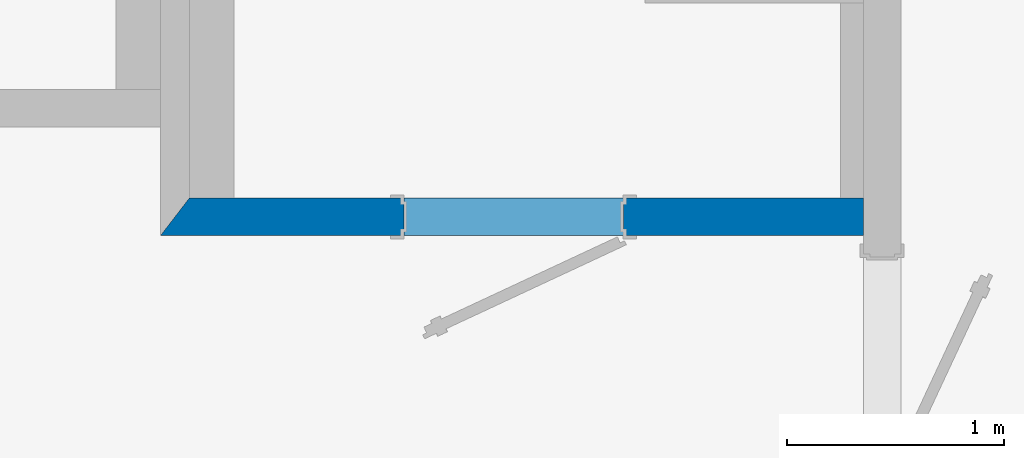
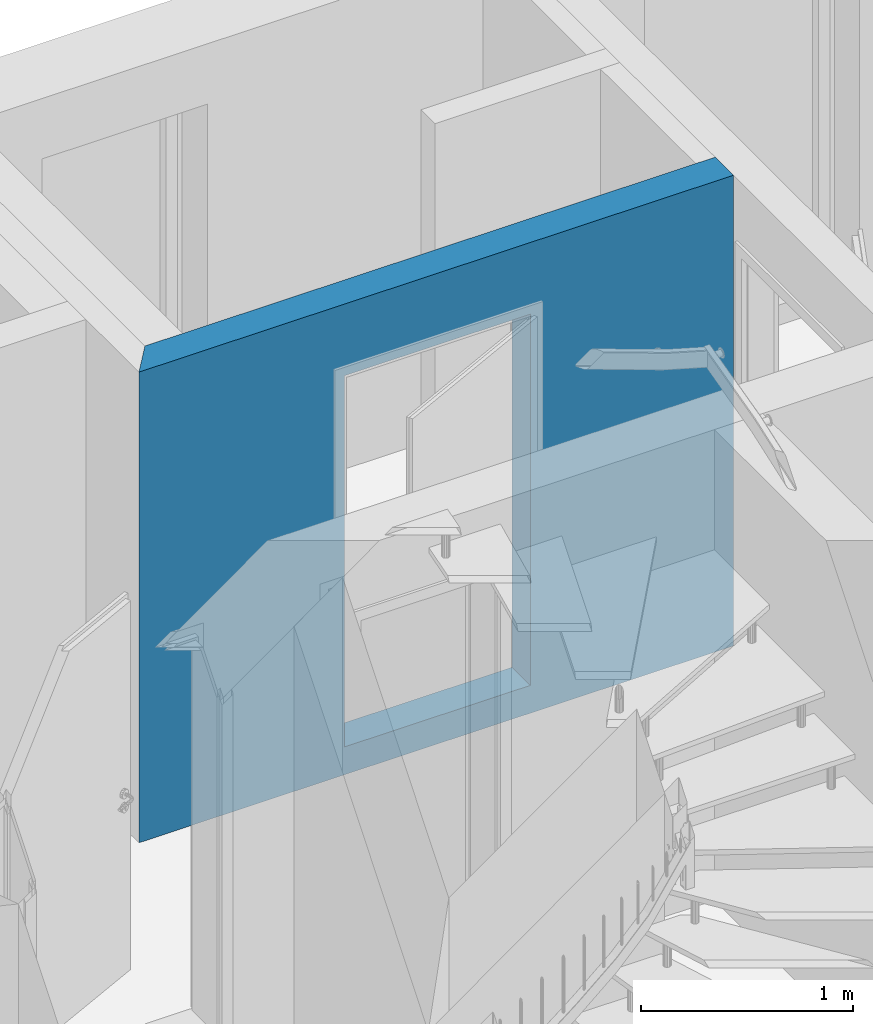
# One storey, part 11 of 13: 1 wall, 1 opening.
"""IFC2X3 building model written with IfcOpenShell, lengths in millimetres."""

import ifcopenshell
import ifcopenshell.guid

model = None  # the IFC model being written
_history = None  # IfcOwnerHistory: only IFC2X3 demands one
_inside = {}  # id of a spatial element -> (the spatial element, [elements in it])
_under = {}  # id of a project, library or spatial element -> (it, [spatial elements below it])
_declared = {}  # id of a project -> (the project, [libraries it declares])
_typed = {}  # id of a type object -> (the type object, [elements of that type])
_made_of = {}  # id of a material, layer set ... -> (it, [elements and type objects made of it])


def new_model(schema):
    """Start an empty IFC model of exactly this schema.

    Asked for "IFC4X3", IfcOpenShell would pick the latest addendum, in which some entities
    have other attributes; the version numbers below select the first issue.
    IFC2X3 requires an IfcOwnerHistory on every rooted entity: one is made here for all.
    """
    global model, _history
    if schema == "IFC4X3":
        model = ifcopenshell.file(schema_version=(4, 3, 0, 0))
    else:
        model = ifcopenshell.file(schema=schema)
    _inside.clear()
    _under.clear()
    _declared.clear()
    _typed.clear()
    _made_of.clear()
    _history = None
    if model.schema == "IFC2X3":
        org = make("IfcOrganization", Name="unknown")
        user = make(
            "IfcPersonAndOrganization",
            ThePerson=make("IfcPerson", FamilyName="unknown"),
            TheOrganization=org,
        )
        app = make(
            "IfcApplication",
            ApplicationDeveloper=org,
            Version="unknown",
            ApplicationFullName="unknown",
            ApplicationIdentifier="unknown",
        )
        _history = make(
            "IfcOwnerHistory",
            OwningUser=user,
            OwningApplication=app,
            ChangeAction="ADDED",
            CreationDate=0,
        )
    return model


def make(cls, **values):
    """One entity of the class cls with the attributes given. An attribute that is None is left unset."""
    return model.create_entity(
        cls, **{name: value for name, value in values.items() if value is not None}
    )


def rooted(cls, **values):
    """An entity with a GlobalId (a new one), such as an element, a storey or a relation."""
    return make(cls, GlobalId=ifcopenshell.guid.new(), OwnerHistory=_history, **values)


def si_unit(unit_type, name, prefix=None):
    """IfcSIUnit, for example si_unit("LENGTHUNIT", "METRE", prefix="MILLI")."""
    return make("IfcSIUnit", UnitType=unit_type, Prefix=prefix, Name=name)


def assignment(units):
    """IfcUnitAssignment: the units of a project."""
    return None if units is None else make("IfcUnitAssignment", Units=units)


def point(xyz):
    """IfcCartesianPoint."""
    return None if xyz is None else make("IfcCartesianPoint", Coordinates=xyz)


def direction(xyz):
    """IfcDirection."""
    return None if xyz is None else make("IfcDirection", DirectionRatios=xyz)


def frame(location, z_axis=None, x_axis=None):
    """IfcAxis2Placement3D, a coordinate frame: its origin and axes. An axis left out is left unset."""
    return make(
        "IfcAxis2Placement3D",
        Location=point(location),
        Axis=direction(z_axis),
        RefDirection=direction(x_axis),
    )


def origin_with_axes():
    """The frame at (0, 0, 0) with the z axis (0, 0, 1) and the x axis (1, 0, 0) written out."""
    return frame((0.0, 0.0, 0.0), z_axis=(0.0, 0.0, 1.0), x_axis=(1.0, 0.0, 0.0))


def place(relative_to, where):
    """IfcLocalPlacement: puts the frame where relative to a parent placement (None: the world)."""
    return make(
        "IfcLocalPlacement", PlacementRelTo=relative_to, RelativePlacement=where
    )


def context(
    kind, dimensions, precision=None, world=None, true_north=None, identifier=None
):
    """IfcGeometricRepresentationContext, for example the 3D "Model" context."""
    return make(
        "IfcGeometricRepresentationContext",
        ContextIdentifier=identifier,
        ContextType=kind,
        CoordinateSpaceDimension=dimensions,
        Precision=precision,
        WorldCoordinateSystem=world,
        TrueNorth=true_north,
    )


def project(units=None, contexts=None):
    """IfcProject with its units and contexts."""
    return rooted(
        "IfcProject",
        Name="project",
        RepresentationContexts=contexts,
        UnitsInContext=assignment(units),
    )


def spatial(cls, under=None, at=None, **own):
    """A site, building, storey or space (cls), placed at a placement, below another one or the project."""
    s = rooted(cls, ObjectPlacement=at, **own)
    if under is not None:
        _under.setdefault(under.id(), (under, []))[1].append(s)
    return s


def faces_of(points, faces, orient=None, outer=None):
    """IfcFace entities. A face is a list of loops; a loop is a list of indices into points, from 0.

    orient and outer hold one flag for each loop. By default every Orientation is true, the
    first loop of a face is its IfcFaceOuterBound and the others are IfcFaceBound.
    """
    made = []
    for i, loops in enumerate(faces):
        bounds = []
        for j, loop in enumerate(loops):
            is_outer = j == 0 if outer is None else outer[i][j]
            bounds.append(
                make(
                    "IfcFaceOuterBound" if is_outer else "IfcFaceBound",
                    Bound=make("IfcPolyLoop", Polygon=[points[k] for k in loop]),
                    Orientation=True if orient is None else orient[i][j],
                )
            )
        made.append(make("IfcFace", Bounds=bounds))
    return made


def faceted_brep(points, faces, orient=None, outer=None, voids=None):
    """IfcFacetedBrep: a solid bounded by flat faces; with voids (closed shells), ...WithVoids."""
    shared = [point(p) for p in points]
    hull = make("IfcClosedShell", CfsFaces=faces_of(shared, faces, orient, outer))
    if voids is None:
        return make("IfcFacetedBrep", Outer=hull)
    return make(
        "IfcFacetedBrepWithVoids",
        Outer=hull,
        Voids=[
            make(cls, CfsFaces=faces_of(shared, fs, o, b)) for cls, fs, o, b in voids
        ],
    )


def shape(context_of_items, identifier, shape_type, items):
    """IfcShapeRepresentation: the items that make up one representation, for example the "Body"."""
    return make(
        "IfcShapeRepresentation",
        ContextOfItems=context_of_items,
        RepresentationIdentifier=identifier,
        RepresentationType=shape_type,
        Items=items,
    )


def material(Name=None, Category=None):
    """IfcMaterial."""
    return make("IfcMaterial", Name=Name, Category=Category)


def layer(
    of_material, thickness, ventilated=None, Name=None, Category=None, Priority=None
):
    """IfcMaterialLayer: one layer of a wall or slab, of a material (None: an air gap)."""
    return make(
        "IfcMaterialLayer",
        Material=of_material,
        LayerThickness=thickness,
        IsVentilated=ventilated,
        Name=Name,
        Category=Category,
        Priority=Priority,
    )


def layer_set(layers, Name=None):
    """IfcMaterialLayerSet."""
    return make("IfcMaterialLayerSet", MaterialLayers=layers, LayerSetName=Name)


def layer_usage(for_layer_set, set_direction, sense, offset, extent=None):
    """IfcMaterialLayerSetUsage: how a layer set lies in its element."""
    return make(
        "IfcMaterialLayerSetUsage",
        ForLayerSet=for_layer_set,
        LayerSetDirection=set_direction,
        DirectionSense=sense,
        OffsetFromReferenceLine=offset,
        ReferenceExtent=extent,
    )


def made_of(thing, what):
    """Note that an element or type object is made of a material, layer set ...; save() writes the relation."""
    if what is not None:
        _made_of.setdefault(what.id(), (what, []))[1].append(thing)
    return thing


def element(
    cls,
    number,
    at=None,
    inside=None,
    cuts=None,
    type_object=None,
    material=None,
    context=None,
    identifier="Body",
    shape_type=None,
    held_by="IfcProductDefinitionShape",
    body=None,
    shapes=None,
    **own,
):
    """One element of the class cls, such as IfcWall. Its Tag is "e" and its number.

    at: its placement. inside: the storey or other place that contains it. cuts: it is an
    opening in that element (IfcRelVoidsElement). A single representation is given by context,
    identifier, shape_type and body (its items); several are given by shapes. held_by: the class
    of the entity that holds the representations. save() writes the other relations.
    """
    e = rooted(cls, Tag="e%d" % number, ObjectPlacement=at, **own)
    if body is not None:
        shapes = [shape(context, identifier, shape_type, body)]
    if shapes is not None:
        e.Representation = make(held_by, Representations=shapes)
    if inside is not None:
        _inside.setdefault(inside.id(), (inside, []))[1].append(e)
    if cuts is not None:
        rooted(
            "IfcRelVoidsElement", RelatingBuildingElement=cuts, RelatedOpeningElement=e
        )
    if type_object is not None:
        _typed.setdefault(type_object.id(), (type_object, []))[1].append(e)
    return made_of(e, material)


def aggregate(whole, parts):
    """IfcRelAggregates: a whole, such as a stair, and the parts it consists of."""
    return rooted("IfcRelAggregates", RelatingObject=whole, RelatedObjects=parts)


def save(model, path):
    """Write the relations noted so far, then the file.

    IfcRelAggregates (storeys below a building ...), IfcRelContainedInSpatialStructure (elements
    in a storey), IfcRelDefinesByType, IfcRelAssociatesMaterial and IfcRelDeclares: one each for
    every whole, place, type object, material and project.
    """
    for whole, parts in _under.values():
        aggregate(whole, parts)
    for where, things in _inside.values():
        rooted(
            "IfcRelContainedInSpatialStructure",
            RelatedElements=things,
            RelatingStructure=where,
        )
    for kind, things in _typed.values():
        rooted("IfcRelDefinesByType", RelatedObjects=things, RelatingType=kind)
    for what, things in _made_of.values():
        rooted("IfcRelAssociatesMaterial", RelatedObjects=things, RelatingMaterial=what)
    for by, libraries in _declared.values():
        rooted("IfcRelDeclares", RelatingContext=by, RelatedDefinitions=libraries)
    model.write(path)


model = new_model("IFC2X3")

# Units and contexts
model_context = context("Model", 3, world=origin_with_axes())
ifc_project = project(units=[si_unit("LENGTHUNIT", "METRE", prefix="MILLI")], contexts=[model_context])

# Site, building, storey
site_placement = place(None, origin_with_axes())
site = spatial("IfcSite", under=ifc_project, at=site_placement, Name="Site", CompositionType="ELEMENT")
building_placement = place(site_placement, origin_with_axes())
building = spatial("IfcBuilding", under=site, at=building_placement, Name="?", CompositionType="ELEMENT")
storey_placement = place(building_placement, origin_with_axes())
storey = spatial("IfcBuildingStorey", under=building, at=storey_placement, Name="Erdgeschoß", CompositionType="ELEMENT", Elevation=0.0)

# Wall, opening
ifc_material = material(Name="Material_IW")
ifc_layer = layer(ifc_material, 172.0, ventilated=False)
ifc_layer_set = layer_set([ifc_layer], Name="MaterialLayerSet_IW")
ifc_layer_usage = layer_usage(ifc_layer_set, "AXIS2", "NEGATIVE", 86.0)
wall_placement = place(storey_placement, frame((14803.0, -2483.0, 0.0), z_axis=(0.0, 0.0, 1.0), x_axis=(-1.0, 0.0, 0.0)))
wall = element("IfcWall", 1, at=wall_placement, inside=storey, material=ifc_layer_usage, Name="IW-05", context=model_context, shape_type="Brep", body=[
    faceted_brep([(3101.99984251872, -86.0, 0.0), (3101.99984251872, -86.0, 2707.0), (0.0, -86.0, 2707.0), (0.0, -86.0, 0.0), (3233.99995552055, 86.0, 0.0), (3233.99995552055, 86.0, 2707.0), (3101.99984251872, -85.9999999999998, 2707.0), (3101.99984251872, -85.9999999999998, 0.0), (0.0, 86.0, 0.0), (0.0, 86.0, 2707.0), (3233.99995552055, 86.0, 2707.0), (3233.99995552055, 86.0, 0.0), (0.0, -86.0, 0.0), (0.0, -86.0, 2707.0), (0.0, 86.0, 2707.0), (0.0, 86.0, 0.0), (0.0, -86.0, 0.0), (0.0, 86.0, 0.0), (3233.99995552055, 86.0, 0.0), (3101.99984251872, -86.0, 0.0), (0.0, -86.0, 2707.0), (3101.99984251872, -86.0, 2707.0), (3233.99995552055, 86.0, 2707.0), (0.0, 86.0, 2707.0)], [[[0, 1, 2, 3]], [[4, 5, 6, 7]], [[8, 9, 10, 11]], [[12, 13, 14, 15]], [[16, 17, 18, 19]], [[20, 21, 22, 23]]]),
])
opening_placement = place(wall_placement, frame((1105.0, 0.0, 160.0), z_axis=(0.0, 0.0, 1.0), x_axis=(1.0, 0.0, 0.0)))
element("IfcOpeningElement", 2, at=opening_placement, cuts=wall, Name="IW-05|IT04", context=model_context, shape_type="Brep", body=[
    faceted_brep([(0.0, 96.0, 0.0), (0.0, 96.0, 2135.0), (1010.0, 96.0, 2135.0), (1010.0, 96.0, 0.0), (0.0, -96.0, 0.0), (0.0, -96.0, 2135.0), (0.0, 96.0, 2135.0), (0.0, 96.0, 0.0), (1010.0, -96.0, 0.0), (0.0, -96.0, 0.0), (0.0, 96.0, 0.0), (1010.0, 96.0, 0.0), (1010.0, -96.0, 2135.0), (1010.0, -96.0, 0.0), (1010.0, 96.0, 0.0), (1010.0, 96.0, 2135.0), (0.0, -96.0, 2135.0), (1010.0, -96.0, 2135.0), (1010.0, 96.0, 2135.0), (0.0, 96.0, 2135.0), (0.0, -96.0, 0.0), (1010.0, -96.0, 0.0), (1010.0, -96.0, 2135.0), (0.0, -96.0, 2135.0)], [[[0, 1, 2, 3]], [[4, 5, 6, 7]], [[8, 9, 10, 11]], [[12, 13, 14, 15]], [[16, 17, 18, 19]], [[20, 21, 22, 23]]]),
])

save(model, "model.ifc")
